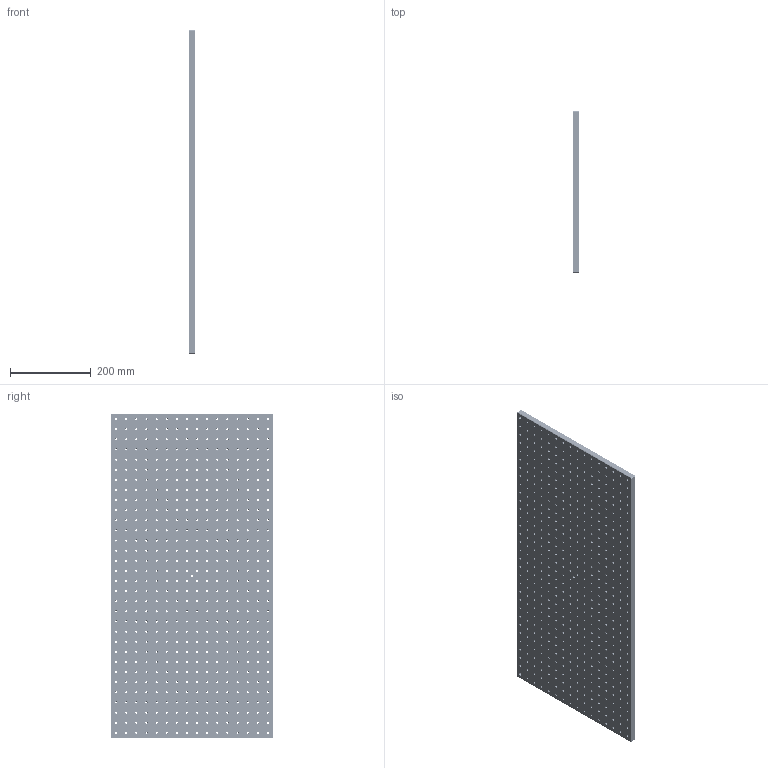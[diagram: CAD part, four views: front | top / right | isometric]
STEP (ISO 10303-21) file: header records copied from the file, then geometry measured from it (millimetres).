
FILE_DESCRIPTION(/* description */ (''),/* implementation_level */ '2;1');
FILE_NAME(/* name */ 'U:\KONSTRUKTORIAI\DOKUMENTACIJA\1\1B-ALE\1B-ALE-40-80-015\step\1B-ALE-40-80-015.stp',/* time_stamp */ '2016-06-15T08:12:08+03:00',/* author */ ('dsgn31'),/* organization */ (''),/* preprocessor_version */ 'ST-DEVELOPER v15.2',/* originating_system */ 'Autodesk Inventor 2014',/* authorisation */ '');
FILE_SCHEMA (('AUTOMOTIVE_DESIGN { 1 0 10303 214 3 1 1 }'));
Length unit declared in the file: millimetre
Products named in the file (1): 1B-ALE-40-80-015.01
Bounding box: 15 x 400 x 800 mm (x, y, z)
Volume: 4647103.4 mm3; surface area: 770654.2 mm2
Topology: 1 solids, 1 shells, 1557 faces, 4134 edges, 2584 vertices
Faces by surface type: cone 1016, cylinder 518, plane 23
Full cylindrical faces by diameter (mm): 4.917 x508, 6.5 x5, 11 x5
Entity records: 38463 total; most frequent: DIRECTION 7260, CARTESIAN_POINT 5726, ORIENTED_EDGE 4184, EDGE_LOOP 4122, AXIS2_PLACEMENT_3D 3610, FACE_BOUND 2567, EDGE_CURVE 2092, VERTEX_POINT 2076
